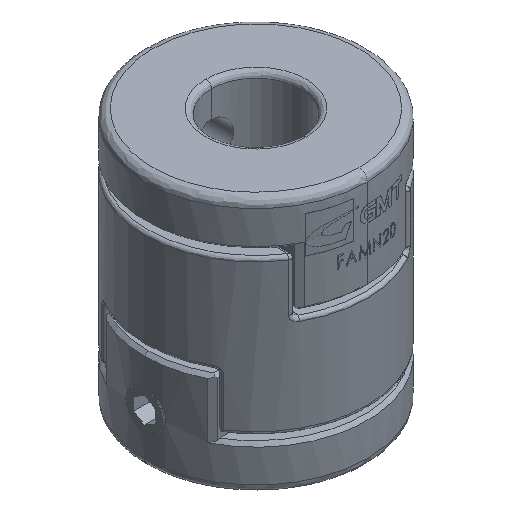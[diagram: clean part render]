
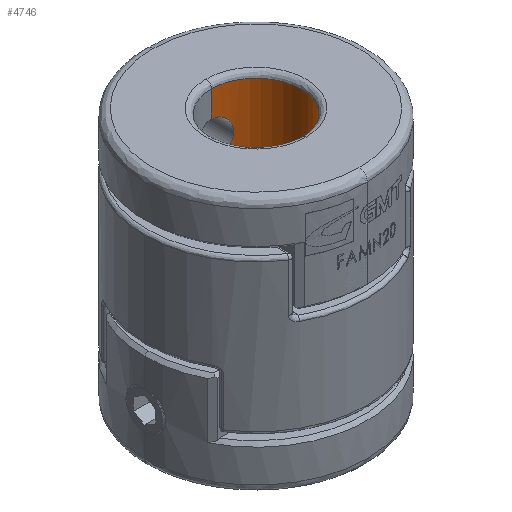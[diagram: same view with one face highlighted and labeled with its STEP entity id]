
A CAD part, isometric view. The second image highlights one B-rep face of the part: STEP entity #4746.
In plain terms, the highlighted cylindrical face has radius 4 mm (diameter 8 mm), a partial arc.
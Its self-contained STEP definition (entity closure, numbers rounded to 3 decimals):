
#2411 = VERTEX_POINT ( 'NONE', #11161 ) ;
#2589 = ORIENTED_EDGE ( 'NONE', *, *, #3123, .T. ) ;
#2590 = ORIENTED_EDGE ( 'NONE', *, *, #3848, .F. ) ;
#2591 = EDGE_CURVE ( 'NONE', #2411, #3850, #5278, .T. ) ;
#2592 = ORIENTED_EDGE ( 'NONE', *, *, #3895, .F. ) ;
#2594 = ORIENTED_EDGE ( 'NONE', *, *, #2591, .T. ) ;
#2596 = EDGE_CURVE ( 'NONE', #3356, #3733, #5271, .T. ) ;
#3088 = ORIENTED_EDGE ( 'NONE', *, *, #2596, .T. ) ;
#3123 = EDGE_CURVE ( 'NONE', #3126, #3132, #12633, .T. ) ;
#3126 = VERTEX_POINT ( 'NONE', #12628 ) ;
#3132 = VERTEX_POINT ( 'NONE', #12635 ) ;
#3356 = VERTEX_POINT ( 'NONE', #13156 ) ;
#3733 = VERTEX_POINT ( 'NONE', #13921 ) ;
#3848 = EDGE_CURVE ( 'NONE', #3126, #3850, #6258, .T. ) ;
#3850 = VERTEX_POINT ( 'NONE', #6253 ) ;
#3890 = EDGE_CURVE ( 'NONE', #3356, #3132, #6381, .T. ) ;
#3895 = EDGE_CURVE ( 'NONE', #2411, #3733, #6376, .T. ) ;
#4745 = EDGE_LOOP ( 'NONE', ( #4747, #3088, #2592, #2594, #2590, #2589 ) ) ;
#4746 = ADVANCED_FACE ( 'NONE', ( #9003 ), #9001, .T. ) ;
#4747 = ORIENTED_EDGE ( 'NONE', *, *, #3890, .F. ) ;
#5250 = CARTESIAN_POINT ( 'NONE',  ( 2.131, 5.867, 14.361 ) ) ;
#5251 = CARTESIAN_POINT ( 'NONE',  ( 2.213, 5.844, 14.293 ) ) ;
#5252 = CARTESIAN_POINT ( 'NONE',  ( 2.364, 5.798, 14.143 ) ) ;
#5253 = CARTESIAN_POINT ( 'NONE',  ( 2.433, 5.775, 14.059 ) ) ;
#5254 = CARTESIAN_POINT ( 'NONE',  ( 2.551, 5.731, 13.881 ) ) ;
#5255 = CARTESIAN_POINT ( 'NONE',  ( 2.602, 5.711, 13.787 ) ) ;
#5256 = CARTESIAN_POINT ( 'NONE',  ( 2.686, 5.677, 13.586 ) ) ;
#5257 = CARTESIAN_POINT ( 'NONE',  ( 2.717, 5.663, 13.482 ) ) ;
#5258 = CARTESIAN_POINT ( 'NONE',  ( 2.76, 5.644, 13.269 ) ) ;
#5259 = CARTESIAN_POINT ( 'NONE',  ( 2.771, 5.639, 13.159 ) ) ;
#5260 = CARTESIAN_POINT ( 'NONE',  ( 2.771, 5.639, 12.941 ) ) ;
#5261 = CARTESIAN_POINT ( 'NONE',  ( 2.76, 5.644, 12.833 ) ) ;
#5262 = CARTESIAN_POINT ( 'NONE',  ( 2.717, 5.663, 12.62 ) ) ;
#5263 = CARTESIAN_POINT ( 'NONE',  ( 2.684, 5.677, 12.515 ) ) ;
#5264 = CARTESIAN_POINT ( 'NONE',  ( 2.56, 5.728, 12.218 ) ) ;
#5265 = CARTESIAN_POINT ( 'NONE',  ( 2.438, 5.775, 12.036 ) ) ;
#5266 = CARTESIAN_POINT ( 'NONE',  ( 2.138, 5.867, 11.735 ) ) ;
#5267 = CARTESIAN_POINT ( 'NONE',  ( 1.956, 5.912, 11.613 ) ) ;
#5268 = DIRECTION ( 'NONE',  ( 0., -1., 0. ) ) ;
#5269 = DIRECTION ( 'NONE',  ( 0., 0., 1. ) ) ;
#5270 = AXIS2_PLACEMENT_3D ( 'NONE', #5277, #5269, #5268 ) ;
#5271 = CIRCLE ( 'NONE', #5270, 4. ) ;
#5272 = CARTESIAN_POINT ( 'NONE',  ( 1.657, 5.961, 11.488 ) ) ;
#5273 = CARTESIAN_POINT ( 'NONE',  ( 1.552, 5.974, 11.456 ) ) ;
#5274 = CARTESIAN_POINT ( 'NONE',  ( 1.339, 5.991, 11.413 ) ) ;
#5275 = CARTESIAN_POINT ( 'NONE',  ( 1.231, 5.995, 11.402 ) ) ;
#5276 = CARTESIAN_POINT ( 'NONE',  ( 1.121, 5.995, 11.402 ) ) ;
#5277 = CARTESIAN_POINT ( 'NONE',  ( 1.121, 1.995, 9.052 ) ) ;
#5278 = B_SPLINE_CURVE_WITH_KNOTS ( 'NONE', 3,
 ( #5276, #5275, #5274, #5273, #5272, #5267, #5266, #5265, #5264, #5263, #5262, #5261, #5260, #5259, #5258, #5257, #5256, #5255, #5254, #5253, #5252, #5251, #5250, #5308, #5307, #5306, #5305, #5304 ),
 .UNSPECIFIED., .F., .F.,
 ( 4, 2, 2, 2, 2, 2, 2, 2, 2, 2, 2, 2, 2, 4 ),
 ( 0., 0., 0.001, 0.001, 0.002, 0.002, 0.003, 0.003, 0.003, 0.004, 0.004, 0.004, 0.005, 0.005 ),
 .UNSPECIFIED. ) ;
#5304 = CARTESIAN_POINT ( 'NONE',  ( 1.121, 5.995, 14.702 ) ) ;
#5305 = CARTESIAN_POINT ( 'NONE',  ( 1.341, 5.995, 14.702 ) ) ;
#5306 = CARTESIAN_POINT ( 'NONE',  ( 1.56, 5.976, 14.657 ) ) ;
#5307 = CARTESIAN_POINT ( 'NONE',  ( 1.857, 5.928, 14.533 ) ) ;
#5308 = CARTESIAN_POINT ( 'NONE',  ( 1.953, 5.909, 14.481 ) ) ;
#6253 = CARTESIAN_POINT ( 'NONE',  ( 1.121, 5.995, 14.702 ) ) ;
#6254 = DIRECTION ( 'NONE',  ( 0., 0., -1. ) ) ;
#6255 = VECTOR ( 'NONE', #6254, 1000. ) ;
#6257 = CARTESIAN_POINT ( 'NONE',  ( 1.121, 5.995, 17.552 ) ) ;
#6258 = LINE ( 'NONE', #6257, #6255 ) ;
#6369 = DIRECTION ( 'NONE',  ( 0., 0., -1. ) ) ;
#6370 = VECTOR ( 'NONE', #6369, 1000. ) ;
#6371 = CARTESIAN_POINT ( 'NONE',  ( 1.121, 5.995, 17.552 ) ) ;
#6376 = LINE ( 'NONE', #6371, #6370 ) ;
#6378 = DIRECTION ( 'NONE',  ( 0., 0., 1. ) ) ;
#6379 = VECTOR ( 'NONE', #6378, 1000. ) ;
#6380 = CARTESIAN_POINT ( 'NONE',  ( 1.121, -2.005, 17.552 ) ) ;
#6381 = LINE ( 'NONE', #6380, #6379 ) ;
#8993 = DIRECTION ( 'NONE',  ( 0., -1., 0. ) ) ;
#8994 = DIRECTION ( 'NONE',  ( 0., 0., 1. ) ) ;
#8995 = CARTESIAN_POINT ( 'NONE',  ( 1.121, 1.995, 17.552 ) ) ;
#8996 = AXIS2_PLACEMENT_3D ( 'NONE', #8995, #8994, #8993 ) ;
#9001 = CYLINDRICAL_SURFACE ( 'NONE', #8996, 4. ) ;
#9003 = FACE_OUTER_BOUND ( 'NONE', #4745, .T. ) ;
#11161 = CARTESIAN_POINT ( 'NONE',  ( 1.121, 5.995, 11.402 ) ) ;
#12628 = CARTESIAN_POINT ( 'NONE',  ( 1.121, 5.995, 17.052 ) ) ;
#12629 = DIRECTION ( 'NONE',  ( 0., -1., 0. ) ) ;
#12630 = DIRECTION ( 'NONE',  ( 0., 0., -1. ) ) ;
#12631 = CARTESIAN_POINT ( 'NONE',  ( 1.121, 1.995, 17.052 ) ) ;
#12632 = AXIS2_PLACEMENT_3D ( 'NONE', #12631, #12630, #12629 ) ;
#12633 = CIRCLE ( 'NONE', #12632, 4. ) ;
#12635 = CARTESIAN_POINT ( 'NONE',  ( 1.121, -2.005, 17.052 ) ) ;
#13156 = CARTESIAN_POINT ( 'NONE',  ( 1.121, -2.005, 9.052 ) ) ;
#13921 = CARTESIAN_POINT ( 'NONE',  ( 1.121, 5.995, 9.052 ) ) ;
